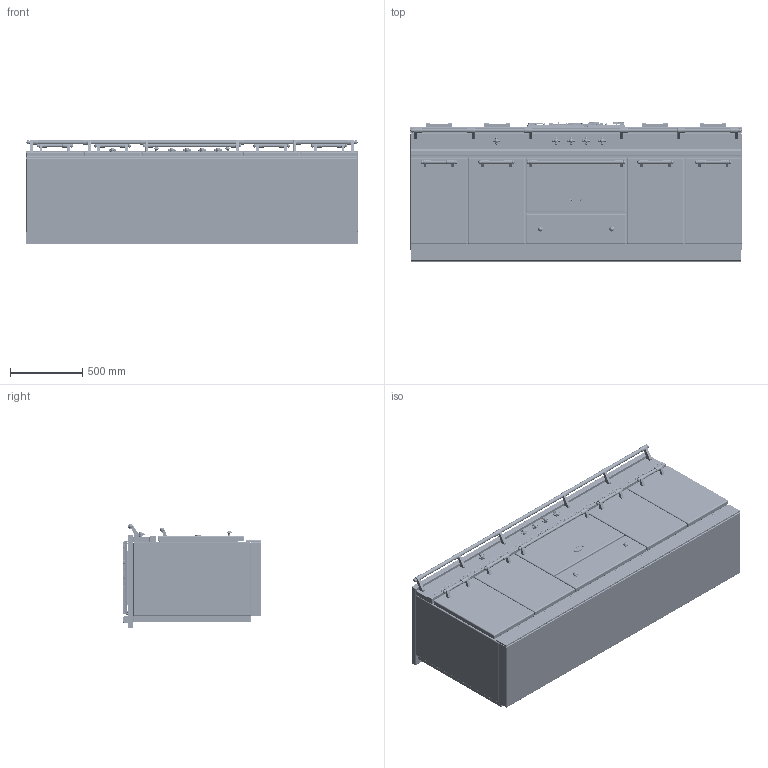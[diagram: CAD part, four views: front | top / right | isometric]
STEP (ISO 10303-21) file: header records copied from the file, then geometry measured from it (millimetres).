
FILE_DESCRIPTION((''),'2;1');
FILE_NAME('LG2332_ASM','2021-12-02T17:11:13',('r.avril'),(''),'CREO PARAMETRIC BY PTC INC, 2017260','CREO PARAMETRIC BY PTC INC, 2017260','');
FILE_SCHEMA(('AP203_CONFIGURATION_CONTROLLED_3D_DESIGN_OF_MECHANICAL_PARTS_AND_ASSEMBLIES_MIM_LF { 1 0 10303 403 2 1 2 }'));
Products named in the file (28): BASE_EXPORT_FONTENAY_LG2331; 65650003; 65650004; 65650006; 65650007; 6531940; 6531941; 6531943; 65049009; 65650001; 6538399; 1931942; 65080022_AF0; 6531942_ASM; BASE_EXPORT_CITEAUX_LG2332_ASM; TABLE_2300_CLASSIQUE_3_FEUX; 5KW; 1_5KW; 3KW; 6537025; 65149005; 90000488_ASM; 6537023; 90000565_ASM; CHEMINEE_2020_LG371_EXPORT_STEP; CHEMINEE_2020_LG182_EXPORT_STEP; TABLE_2300_CLASSIQUE_3_FEUX_ASM; LG2332_ASM
Assembly tree (53 placements, depth 4):
  LG2332_ASM
    BASE_EXPORT_CITEAUX_LG2332_ASM
      BASE_EXPORT_FONTENAY_LG2331
      65650003
      65650004
      65650006  x2
      65650007  x2
      6531940  x5
      6531941  x5
      6531943  x2
      65049009
      65650001
      6531942_ASM  x5
        6538399
        1931942
        65080022_AF0
    TABLE_2300_CLASSIQUE_3_FEUX_ASM
      TABLE_2300_CLASSIQUE_3_FEUX
      5KW
      1_5KW
      3KW
      90000488_ASM  x2
        6537025
        65149005
      90000565_ASM
        6537023
        65149005  x4
      CHEMINEE_2020_LG371_EXPORT_STEP
      CHEMINEE_2020_LG182_EXPORT_STEP  x4
Bounding box: 2305 x 965 x 724 mm (x, y, z)
Volume: 845554899.6 mm3; surface area: 19398245.5 mm2
Topology: 70 solids, 88 shells, 7740 faces, 20086 edges, 12497 vertices
Faces by surface type: plane 3141, cylinder 2659, bspline 868, torus 365, cone 291, sphere 230, extrusion 162, revolution 24
Entity records: 181800 total; most frequent: CARTESIAN_POINT 53692, ORIENTED_EDGE 22254, DIRECTION 20860, EDGE_CURVE 11141, AXIS2_PLACEMENT_3D 7264, VERTEX_POINT 6932, VECTOR 6245, LINE 6195
